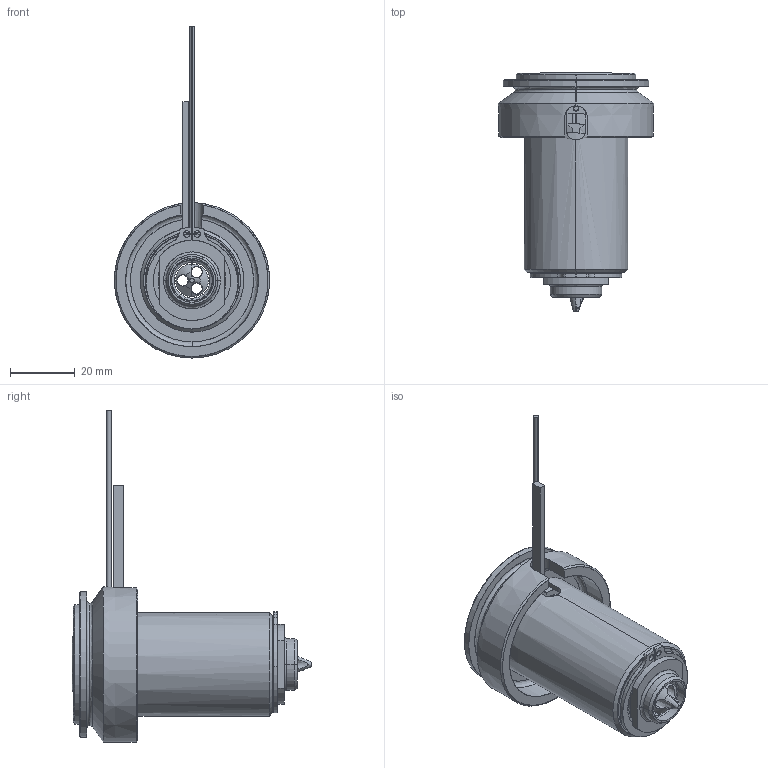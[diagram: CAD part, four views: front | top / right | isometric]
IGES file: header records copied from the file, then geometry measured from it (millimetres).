
Start section: SolidWorks IGES file using analytic representation for surfaces
Global section: file name: C:\Documents and Settings\ws-20\Desktop\TEM\UGEP5001-M-A-1 [Øf-1.36 ØC-12].IGS; native system: SolidWorks 2012; preprocessor: SolidWorks 2012; author: ws-20; date: 120426.100244; units: millimetre
Bounding box: 48 x 74.05 x 102.65 mm (x, y, z)
Surface area: 29795.2 mm2 (no closed solid volume)
Topology: 0 solids, 0 shells, 124 faces, 2364 edges, 2364 vertices
Faces by surface type: revolution 75, bspline 49
